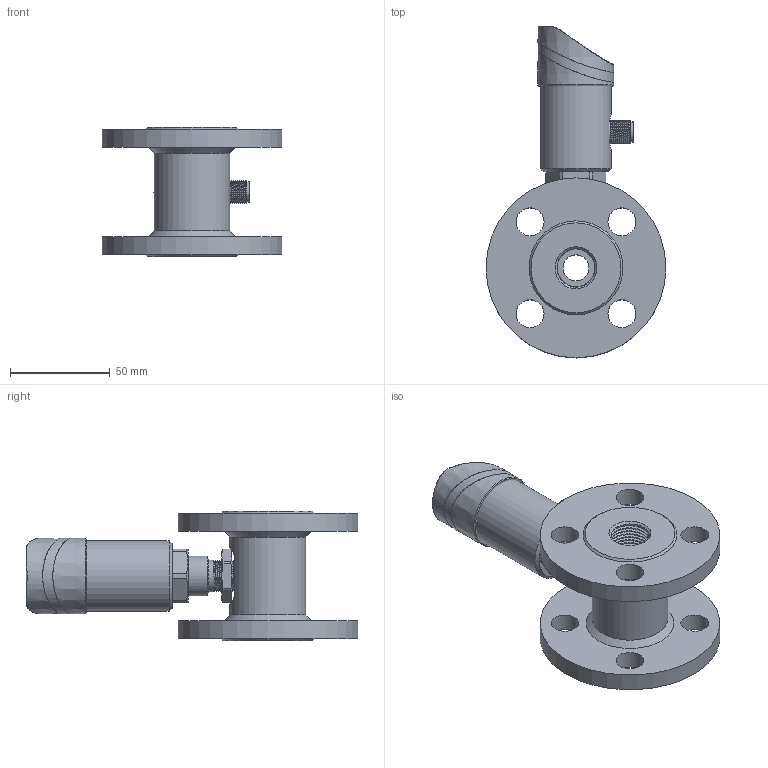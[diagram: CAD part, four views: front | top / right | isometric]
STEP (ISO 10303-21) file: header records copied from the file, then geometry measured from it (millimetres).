
FILE_DESCRIPTION( (''), '2;1');
FILE_NAME( 'QTKE_DN12_flange.step', '2024-10-14T14:48:50+08:00', (''), (''), '', '', '');
FILE_SCHEMA (('AUTOMOTIVE_DESIGN { 1 0 10303 214 3 1 1 1 }'));
Length unit declared in the file: millimetre
Products named in the file (1): QTKE DN12_flange
Bounding box: 90 x 166 x 65 mm (x, y, z)
Volume: 206657.2 mm3; surface area: 65691.1 mm2
Topology: 5 solids, 6 shells, 739 faces, 1916 edges, 1254 vertices
Faces by surface type: plane 273, cylinder 143, extrusion 141, cone 77, bspline 62, torus 32, sphere 11
Full cylindrical faces by diameter (mm): 1.689 x1, 2.7 x3, 12 x1, 13 x1, 14 x8, 15.9 x1, 16.5 x1, 17 x1, 20 x1, 21 x2, 23 x3, 26 x5, 35.5 x1, 37.001 x1, 38 x1, 90 x2
Entity records: 36585 total; most frequent: CARTESIAN_POINT 18291, ORIENTED_EDGE 3612, DIRECTION 2884, EDGE_CURVE 1806, VERTEX_POINT 1214, AXIS2_PLACEMENT_3D 964, VECTOR 956, EDGE_LOOP 896
